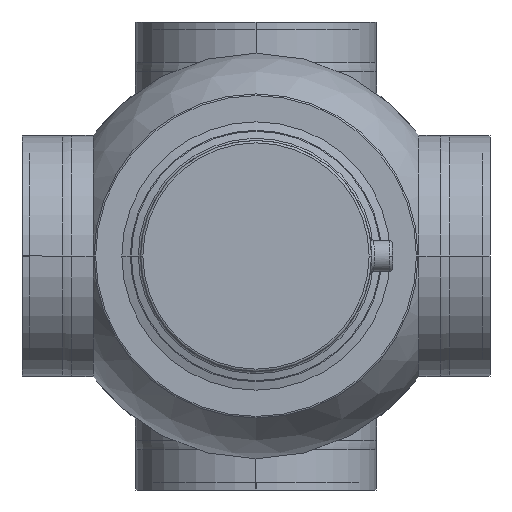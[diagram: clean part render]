
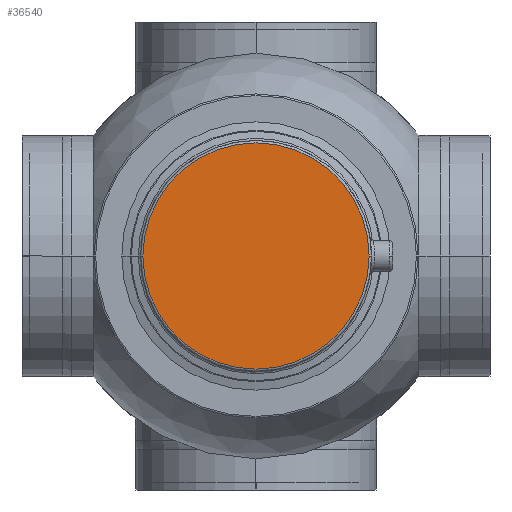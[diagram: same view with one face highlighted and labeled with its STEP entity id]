
A CAD part, front view. The second image highlights one B-rep face of the part: STEP entity #36540.
In plain terms, the highlighted planar face has unit normal (0, -1, 0).
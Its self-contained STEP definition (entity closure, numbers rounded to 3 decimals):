
#36340=CARTESIAN_POINT('',(72.25,0.,0.));
#36350=DIRECTION('',(-0.,1.,0.));
#36360=DIRECTION('',(1.,0.,0.));
#36370=AXIS2_PLACEMENT_3D('',#36340,#36350,#36360);
#36380=PLANE('',#36370);
#36390=CARTESIAN_POINT('',(0.,0.,0.));
#36400=DIRECTION('',(0.,-1.,0.));
#36410=DIRECTION('',(-1.,0.,0.));
#36420=AXIS2_PLACEMENT_3D('',#36390,#36400,#36410);
#36430=CIRCLE('',#36420,72.5);
#36440=CARTESIAN_POINT('',(-72.5,0.,0.));
#36450=VERTEX_POINT('',#36440);
#36460=CARTESIAN_POINT('',(72.5,0.,0.));
#36470=VERTEX_POINT('',#36460);
#36480=EDGE_CURVE('',#36450,#36470,#36430,.T.);
#36490=ORIENTED_EDGE('',*,*,#36480,.T.);
#36500=EDGE_CURVE('',#36470,#36450,#36430,.T.);
#36510=ORIENTED_EDGE('',*,*,#36500,.T.);
#36520=EDGE_LOOP('',(#36510,#36490));
#36530=FACE_OUTER_BOUND('',#36520,.T.);
#36540=ADVANCED_FACE('',(#36530),#36380,.F.);
